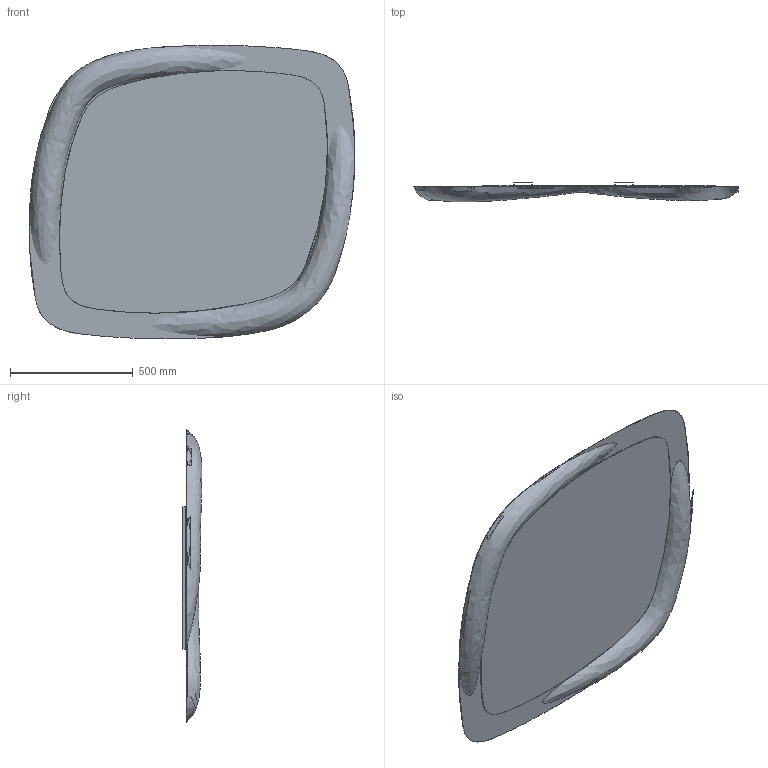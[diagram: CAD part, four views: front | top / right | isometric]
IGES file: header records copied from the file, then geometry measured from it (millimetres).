
Start section: SolidWorks IGES file using analytic representation for surfaces
Global section: file name: Y:\eforma\TECNICO\SOLIDWORKS\E-FORMA\4-SPECCHI\ASTRUM\AST01_Astrum_132x120.IGS; native system: SolidWorks 2022; preprocessor: SolidWorks 2022; author: eforma.tech; date: 240806.091832; units: millimetre
Bounding box: 1324.65 x 81.15 x 1193.43 mm (x, y, z)
Volume: 543107.5 mm3; surface area: 6191639.2 mm2
Topology: 1 solids, 1 shells, 206 faces, 1570 edges, 1434 vertices
Faces by surface type: revolution 102, plane 94, bspline 10
